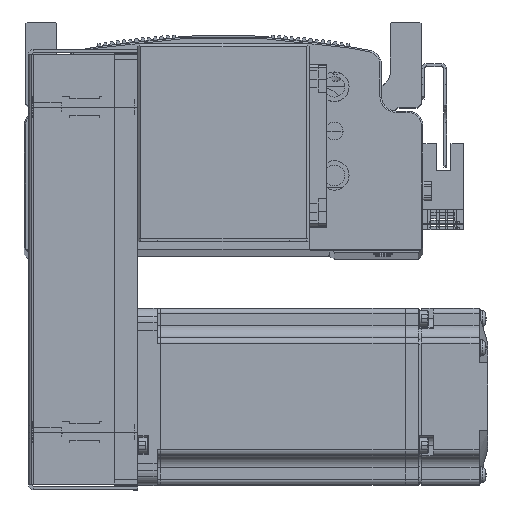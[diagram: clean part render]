
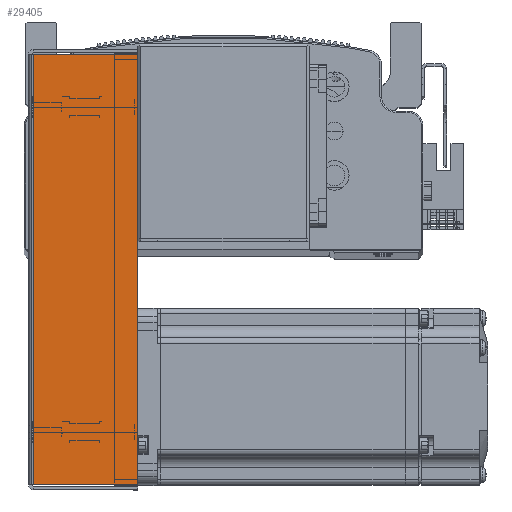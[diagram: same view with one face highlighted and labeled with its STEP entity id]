
A CAD part, top view. The second image highlights one B-rep face of the part: STEP entity #29405.
In plain terms, the highlighted planar face has unit normal (0, 0, 1) as drawn and (0, 0, -1) by its records, which use the part's own axes.
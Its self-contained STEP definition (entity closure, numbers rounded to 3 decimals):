
#20364 = VECTOR ( 'NONE', #34808, 1000. ) ;
#20377 = LINE ( 'NONE', #34757, #20385 ) ;
#20378 = LINE ( 'NONE', #34718, #20414 ) ;
#20385 = VECTOR ( 'NONE', #34731, 1000. ) ;
#20414 = VECTOR ( 'NONE', #34761, 1000. ) ;
#20423 = LINE ( 'NONE', #34802, #20364 ) ;
#29405 = ADVANCED_FACE ( 'NONE', ( #68389 ), #60430, .F. ) ;
#34516 = DIRECTION ( 'NONE',  ( 1., 0., 0. ) ) ;
#34532 = CARTESIAN_POINT ( 'NONE',  ( 74.5, 0.737, -34.5 ) ) ;
#34718 = CARTESIAN_POINT ( 'NONE',  ( -72.793, 0., -34.5 ) ) ;
#34731 = DIRECTION ( 'NONE',  ( 0., 1., 0. ) ) ;
#34757 = CARTESIAN_POINT ( 'NONE',  ( 72.793, 0., -34.5 ) ) ;
#34761 = DIRECTION ( 'NONE',  ( 0., 1., 0. ) ) ;
#34802 = CARTESIAN_POINT ( 'NONE',  ( 0., 36., -34.5 ) ) ;
#34808 = DIRECTION ( 'NONE',  ( 1., 0., 0. ) ) ;
#38715 = LINE ( 'NONE', #34532, #38716 ) ;
#38716 = VECTOR ( 'NONE', #34516, 1000. ) ;
#42566 = VERTEX_POINT ( 'NONE', #53586 ) ;
#42586 = VERTEX_POINT ( 'NONE', #53594 ) ;
#42661 = VERTEX_POINT ( 'NONE', #53641 ) ;
#42703 = VERTEX_POINT ( 'NONE', #53700 ) ;
#47382 = EDGE_LOOP ( 'NONE', ( #83354, #83401, #83427, #83325 ) ) ;
#51966 = EDGE_CURVE ( 'NONE', #42703, #42661, #38715, .T. ) ;
#52033 = EDGE_CURVE ( 'NONE', #42661, #42566, #20377, .T. ) ;
#52034 = EDGE_CURVE ( 'NONE', #42703, #42586, #20378, .T. ) ;
#52053 = EDGE_CURVE ( 'NONE', #42586, #42566, #20423, .T. ) ;
#53586 = CARTESIAN_POINT ( 'NONE',  ( 72.793, 36., -34.5 ) ) ;
#53594 = CARTESIAN_POINT ( 'NONE',  ( -72.793, 36., -34.5 ) ) ;
#53641 = CARTESIAN_POINT ( 'NONE',  ( 72.793, 0.737, -34.5 ) ) ;
#53700 = CARTESIAN_POINT ( 'NONE',  ( -72.793, 0.737, -34.5 ) ) ;
#60430 = PLANE ( 'NONE',  #62382 ) ;
#60433 = CARTESIAN_POINT ( 'NONE',  ( 0., 0., -34.5 ) ) ;
#60447 = DIRECTION ( 'NONE',  ( 0., 0., 1. ) ) ;
#60489 = DIRECTION ( 'NONE',  ( 0., -1., 0. ) ) ;
#62382 = AXIS2_PLACEMENT_3D ( 'NONE', #60433, #60447, #60489 ) ;
#68389 = FACE_OUTER_BOUND ( 'NONE', #47382, .T. ) ;
#83325 = ORIENTED_EDGE ( 'NONE', *, *, #52033, .F. ) ;
#83354 = ORIENTED_EDGE ( 'NONE', *, *, #51966, .F. ) ;
#83401 = ORIENTED_EDGE ( 'NONE', *, *, #52034, .T. ) ;
#83427 = ORIENTED_EDGE ( 'NONE', *, *, #52053, .T. ) ;
